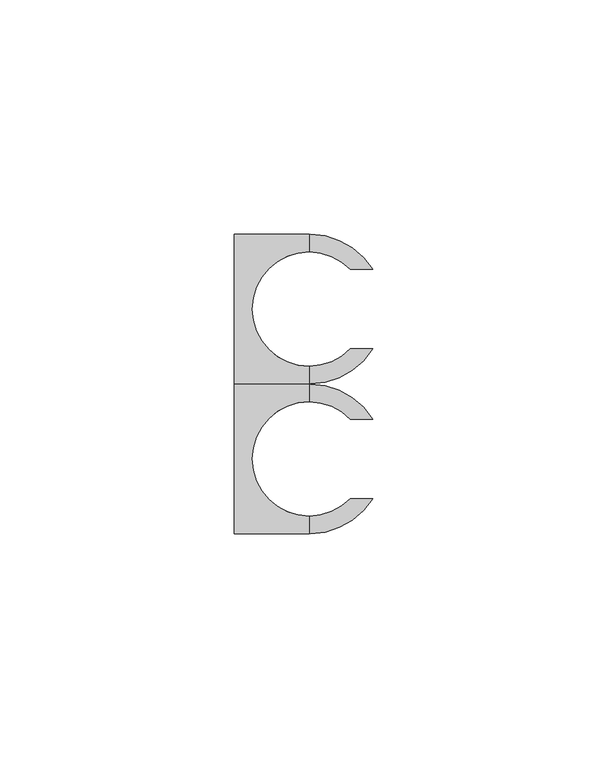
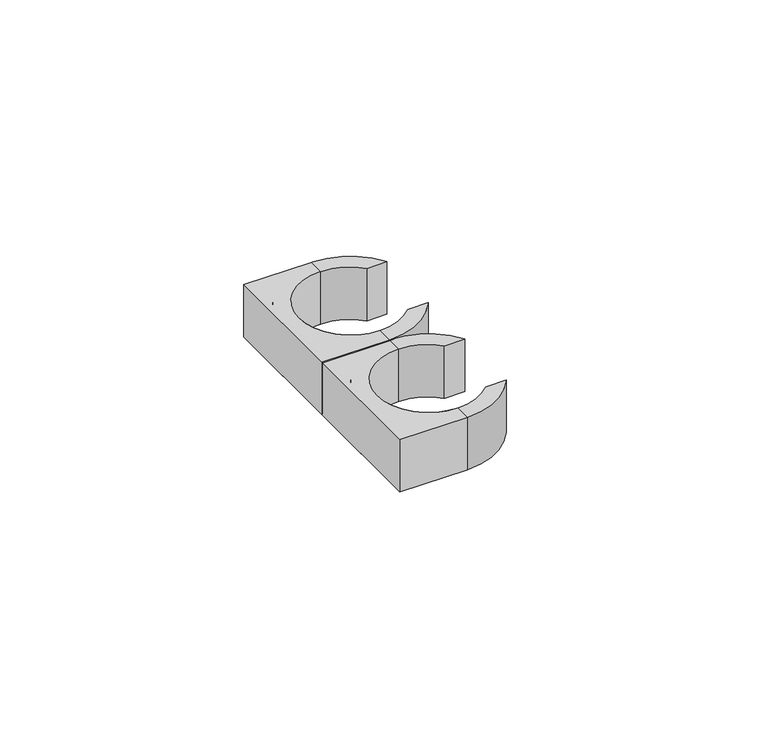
"""IFC4 building model written with IfcOpenShell, lengths in millimetres: valve geometry, EGB_VASEN_ PPR_Abrazadera doble : Abrazadera doble."""

from ifc_helpers import new_model, si_unit, point, frame_2d, origin, origin_with_axes, origin_2d, place, context, project, spatial, polyline, circle_curve, trimmed, segment, composite_curve, outline, extrude, source, transform, mapped, element, save


def valve_8b6bb071(model_context):
    return source(origin(), model_context, "Body", "SweptSolid", [
        extrude(outline(composite_curve([segment(polyline([(0.0, 16.0), (-16.0, 16.0), (-16.0, 48.0), (0.0, 48.0), (0.0, 44.2)]), True, "CONTINUOUS"), segment(trimmed(circle_curve(frame_2d((0.0, 32.0)), 12.2), [point((0.0, 44.2))], [point((-12.2, 32.0))], True, "CARTESIAN"), True, "CONTINUOUS"), segment(trimmed(circle_curve(frame_2d((0.0, 32.0)), 12.2), [point((-12.2, 32.0))], [point((0.0, 19.8))], True, "CARTESIAN"), True, "CONTINUOUS"), segment(polyline([(0.0, 19.8), (0.0, 16.0)]), True, "CONTINUOUS")], self_intersect=False)), origin_with_axes(), (0.0, 0.0, 1.0), 13.15),
        extrude(outline(composite_curve([segment(trimmed(circle_curve(frame_2d((0.0, 32.0)), 16.0), [point((-16.0, 32.0))], [point((13.571086, 40.475))], False, "CARTESIAN"), True, "CONTINUOUS"), segment(polyline([(13.571086, 40.475), (8.7757834, 40.475)]), True, "CONTINUOUS"), segment(trimmed(circle_curve(frame_2d((0.0, 32.0)), 12.2), [point((8.7757834, 40.475))], [point((-12.2, 32.0))], True, "CARTESIAN"), True, "CONTINUOUS"), segment(trimmed(circle_curve(frame_2d((0.0, 32.0)), 12.2), [point((-12.2, 32.0))], [point((8.7757834, 23.525))], True, "CARTESIAN"), True, "CONTINUOUS"), segment(polyline([(8.7757834, 23.525), (13.571086, 23.525)]), True, "CONTINUOUS"), segment(trimmed(circle_curve(frame_2d((0.0, 32.0)), 16.0), [point((13.571086, 23.525))], [point((-16.0, 32.0))], False, "CARTESIAN"), True, "CONTINUOUS")], self_intersect=False)), origin_with_axes(), (0.0, 0.0, 1.0), 13.15),
        extrude(outline(composite_curve([segment(polyline([(0.0, -16.0), (-16.0, -16.0), (-16.0, 16.0), (0.0, 16.0), (0.0, 12.2)]), True, "CONTINUOUS"), segment(trimmed(circle_curve(origin_2d(), 12.2), [point((0.0, 12.2))], [point((-12.2, 0.0))], True, "CARTESIAN"), True, "CONTINUOUS"), segment(trimmed(circle_curve(origin_2d(), 12.2), [point((-12.2, 0.0))], [point((0.0, -12.2))], True, "CARTESIAN"), True, "CONTINUOUS"), segment(polyline([(0.0, -12.2), (0.0, -16.0)]), True, "CONTINUOUS")], self_intersect=False)), origin_with_axes(), (0.0, 0.0, 1.0), 13.15),
        extrude(outline(composite_curve([segment(trimmed(circle_curve(origin_2d(), 16.0), [point((-16.0, 0.0))], [point((13.571086, 8.475))], False, "CARTESIAN"), True, "CONTINUOUS"), segment(polyline([(13.571086, 8.475), (8.7757834, 8.475)]), True, "CONTINUOUS"), segment(trimmed(circle_curve(origin_2d(), 12.2), [point((8.7757834, 8.475))], [point((-12.2, 0.0))], True, "CARTESIAN"), True, "CONTINUOUS"), segment(trimmed(circle_curve(origin_2d(), 12.2), [point((-12.2, 0.0))], [point((8.7757834, -8.475))], True, "CARTESIAN"), True, "CONTINUOUS"), segment(polyline([(8.7757834, -8.475), (13.571086, -8.475)]), True, "CONTINUOUS"), segment(trimmed(circle_curve(origin_2d(), 16.0), [point((13.571086, -8.475))], [point((-16.0, 0.0))], False, "CARTESIAN"), True, "CONTINUOUS")], self_intersect=False)), origin_with_axes(), (0.0, 0.0, 1.0), 13.15),
    ])


if __name__ == "__main__":
    model = new_model("IFC4")
    model_context = context("Model", 3, world=origin())
    ifc_project = project(units=[si_unit("LENGTHUNIT", "METRE", prefix="MILLI")], contexts=[model_context])
    site = spatial("IfcSite", under=ifc_project)
    building = spatial("IfcBuilding", under=site)
    placement = place(None, origin())
    valve_shape = valve_8b6bb071(model_context)
    element("IfcValve", 1, ObjectType="EGB_VASEN_ PPR_Abrazadera doble : Abrazadera doble", at=placement, inside=building, context=model_context, shape_type="MappedRepresentation", body=[
        mapped(valve_shape, transform((0.0, 0.0, 0.0), x_axis=(1.0, 0.0, 0.0), y_axis=(0.0, 1.0, 0.0), z_axis=(0.0, 0.0, 1.0))),
    ])
    save(model, "model.ifc")
